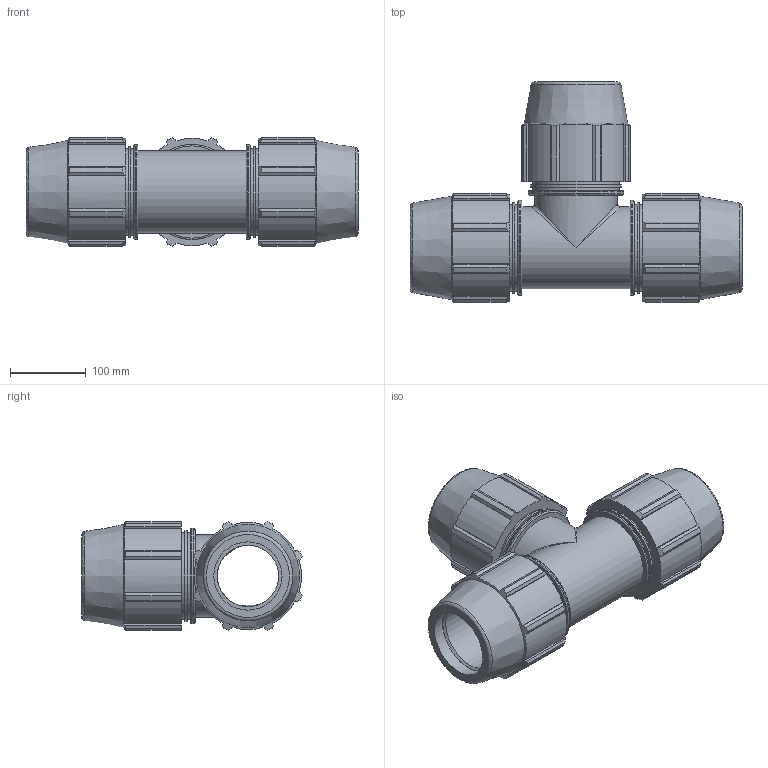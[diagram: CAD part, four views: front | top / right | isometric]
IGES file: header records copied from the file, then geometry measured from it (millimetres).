
Global section: file name: 870400090_180400090_840406090.ipt; native system: Autodesk Inventor 2015; preprocessor: unknown; author: KIM; date: 20180325.201206; units: millimetre
Bounding box: 438 x 290.51 x 143.02 mm (x, y, z)
Volume: 4041515.6 mm3; surface area: 476554.9 mm2
Topology: 1 solids, 1 shells, 226 faces, 627 edges, 420 vertices
Faces by surface type: plane 120, cylinder 62, cone 22, revolution 20, bspline 2
Full cylindrical faces by diameter (mm): 108.3 x2, 114 x6, 119.7 x3, 125.4 x3
